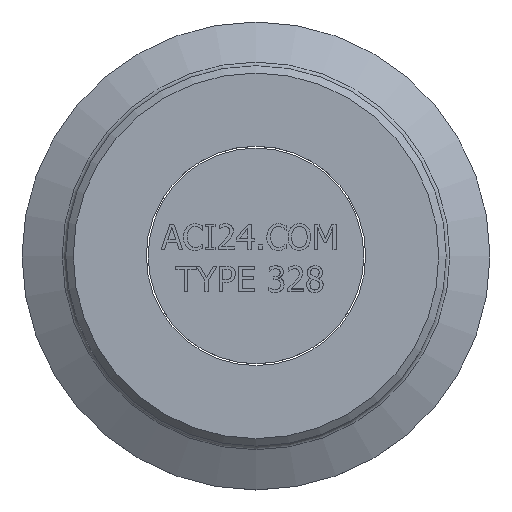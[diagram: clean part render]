
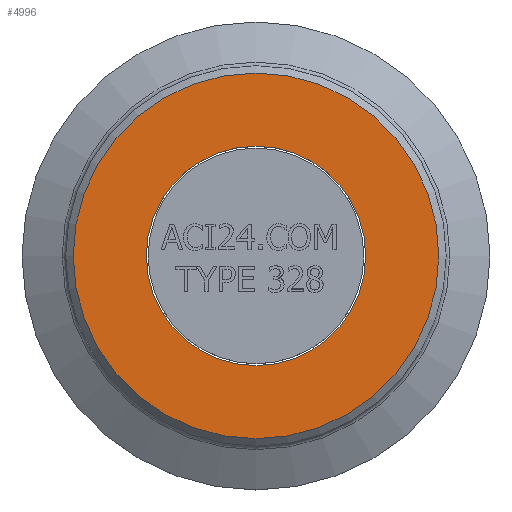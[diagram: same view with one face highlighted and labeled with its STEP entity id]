
A CAD part, top view. The second image highlights one B-rep face of the part: STEP entity #4996.
In plain terms, the highlighted planar face has unit normal (0, 0, 1).
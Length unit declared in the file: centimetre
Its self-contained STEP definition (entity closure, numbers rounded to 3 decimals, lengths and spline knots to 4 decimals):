
#27=CIRCLE('',#5157,2.5);
#29=CIRCLE('',#5161,1.5);
#85=FACE_BOUND('',#992,.T.);
#697=FACE_OUTER_BOUND('',#991,.T.);
#991=EDGE_LOOP('',(#4569));
#992=EDGE_LOOP('',(#4570));
#2430=VERTEX_POINT('',#8913);
#2432=VERTEX_POINT('',#8919);
#3146=EDGE_CURVE('',#2430,#2430,#27,.T.);
#3148=EDGE_CURVE('',#2432,#2432,#29,.T.);
#4569=ORIENTED_EDGE('',*,*,#3146,.F.);
#4570=ORIENTED_EDGE('',*,*,#3148,.F.);
#4732=PLANE('',#5160);
#4996=ADVANCED_FACE('',(#697,#85),#4732,.T.);
#5157=AXIS2_PLACEMENT_3D('',#8914,#5951,#5952);
#5160=AXIS2_PLACEMENT_3D('',#8918,#5957,#5958);
#5161=AXIS2_PLACEMENT_3D('',#8920,#5959,#5960);
#5951=DIRECTION('center_axis',(0.,0.,
-1.));
#5952=DIRECTION('ref_axis',(0.,-1.,0.));
#5957=DIRECTION('center_axis',(0.,0.,
1.));
#5958=DIRECTION('ref_axis',(0.,1.,0.));
#5959=DIRECTION('center_axis',(0.,0.,
1.));
#5960=DIRECTION('ref_axis',(-1.,0.,0.));
#8913=CARTESIAN_POINT('',(0.,2.5,0.5));
#8914=CARTESIAN_POINT('Origin',(0.,0.,
0.5));
#8918=CARTESIAN_POINT('Origin',(0.,1.5,0.5));
#8919=CARTESIAN_POINT('',(0.,1.5,0.5));
#8920=CARTESIAN_POINT('Origin',(0.,0.,
0.5));
